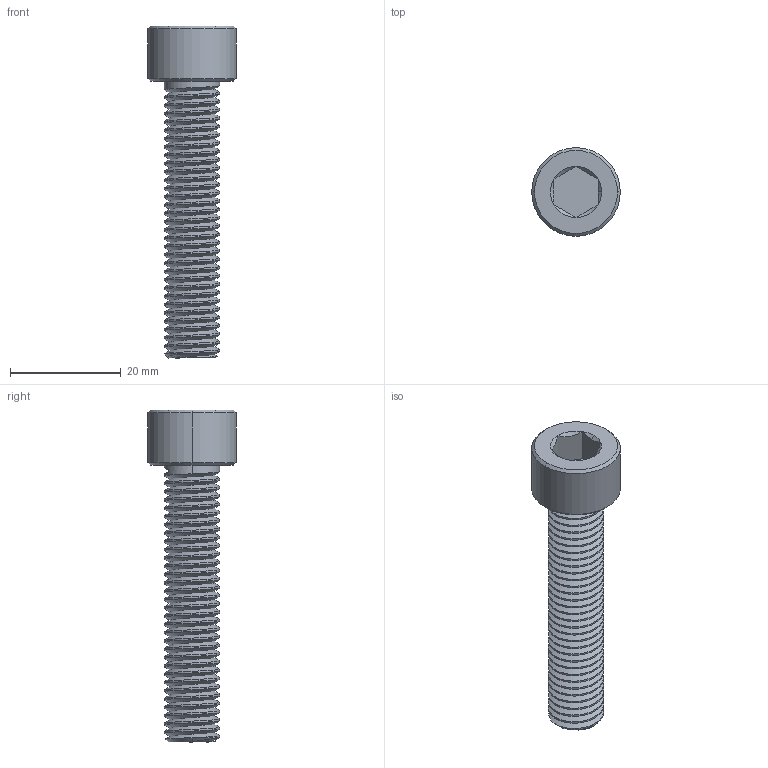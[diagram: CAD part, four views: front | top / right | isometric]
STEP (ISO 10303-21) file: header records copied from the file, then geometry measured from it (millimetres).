
FILE_DESCRIPTION (( 'STEP AP214' ), '1' );
FILE_NAME ('3-897-10050.STEP', '2020-05-21T14:24:28', ( '' ), ( '' ), 'SwSTEP 2.0', 'SolidWorks 2020', '' );
FILE_SCHEMA (( 'AUTOMOTIVE_DESIGN' ));
Length unit declared in the file: millimetre
Products named in the file (1): 3-897-10050
Bounding box: 16 x 16 x 60 mm (x, y, z)
Volume: 5012.8 mm3; surface area: 3554.6 mm2
Topology: 1 solids, 1 shells, 96 faces, 258 edges, 166 vertices
Faces by surface type: cylinder 68, cone 14, plane 12, bspline 2
Entity records: 6373 total; most frequent: CARTESIAN_POINT 4357, ORIENTED_EDGE 516, DIRECTION 322, EDGE_CURVE 258, VERTEX_POINT 166, AXIS2_PLACEMENT_3D 116, EDGE_LOOP 98, ADVANCED_FACE 96
